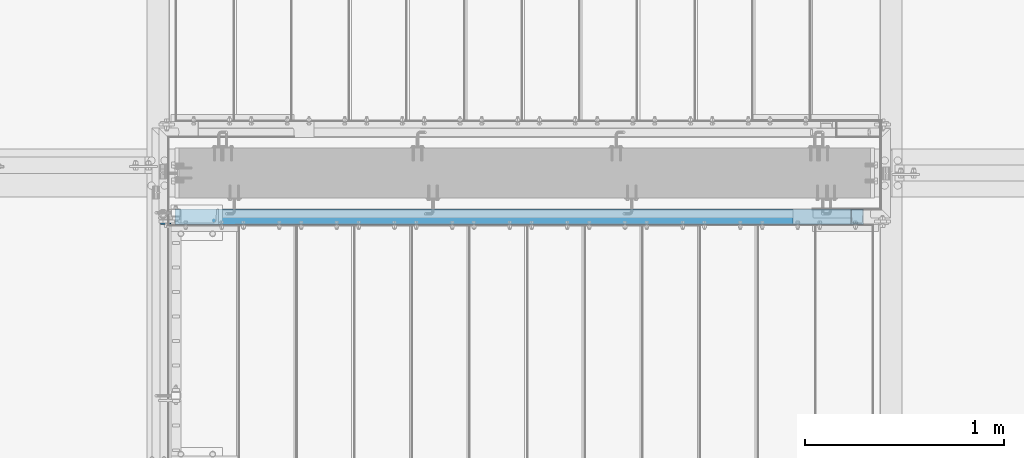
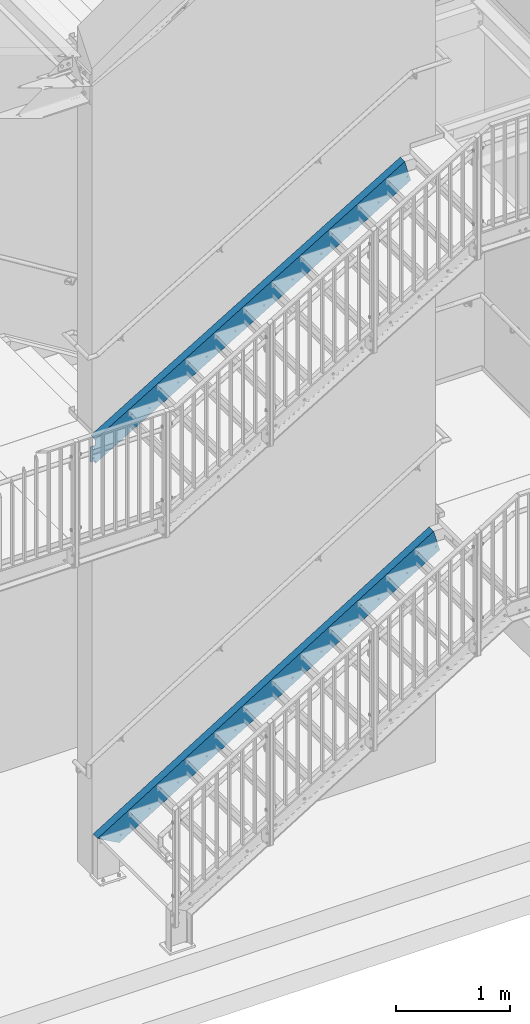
# One storey, part 32 of 410: 2 members, 46 openings.
"""IFC2X3 building model written with IfcOpenShell, lengths in millimetres."""

from ifc_helpers import new_model, entity, si_unit, converted_unit, point, frame, frame_2d, origin, origin_with_axes, origin_2d_with_axis, place, context, project, spatial, circle_curve, line_curve, trimmed, segment, composite_curve, circle, u_section, outline, extrude, clip, halfspace, material, element, save


model = new_model("IFC2X3")

# Units and contexts
model_context = context("Model", 3, precision=1e-09, world=origin_with_axes())
ifc_project = project(units=[si_unit("LENGTHUNIT", "METRE", prefix="MILLI"), si_unit("AREAUNIT", "SQUARE_METRE"), si_unit("VOLUMEUNIT", "CUBIC_METRE"), converted_unit("PLANEANGLEUNIT", "DEGREE", entity("IfcPlaneAngleMeasure", 0.01745329), si_unit("PLANEANGLEUNIT", "RADIAN"), dimensions=[0, 0, 0, 0, 0, 0, 0])], contexts=[model_context])

# Site, building, storey
site_placement = place(None, origin_with_axes())
site = spatial("IfcSite", under=ifc_project, at=site_placement, Name="mKR Teilneubau & Sanierung BA1 - Ostfildern", CompositionType="ELEMENT")
building_placement = place(site_placement, origin_with_axes())
building = spatial("IfcBuilding", under=site, at=building_placement, Name="Struktur 1", CompositionType="ELEMENT")
storey_placement = place(building_placement, origin_with_axes())
storey = spatial("IfcBuildingStorey", under=building, at=storey_placement, Name="Default Storey", CompositionType="ELEMENT", Elevation=0.0)

# Member, openings
ifc_material = material(Name="S235JR")
member_1_placement = place(None, frame((1936.296714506, 16741.399999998, -2175.379342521), z_axis=(-0.851214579, 0.0, -0.524817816), x_axis=(0.0, 1.0, 0.0)))
member_1 = element("IfcMember", 1, at=member_1_placement, inside=storey, material=ifc_material, Name="-", ObjectType="-", context=model_context, shape_type="Clipping", body=[
    clip(clip(extrude(u_section(Depth=220.0, FlangeWidth=80.0, WebThickness=9.0, FlangeThickness=12.5, FilletRadius=12.5, EdgeRadius=6.0, FlangeSlope=4.574, at=frame_2d((18.6, 0.0))), origin(), (0.0, 0.0, 1.0), 4493.470065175), halfspace(frame((-16741.399999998, -2591.759085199, -467.580855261), z_axis=(0.0, -0.272750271, 0.962084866), x_axis=(-1.0, 0.0, 0.0)), True)), halfspace(frame((-16741.399999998, -626.459299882, 4521.748255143), z_axis=(0.0, -0.487433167, -0.873160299), x_axis=(1.0, 0.0, 0.0)), True)),
])
opening_1_placement = place(member_1_placement, frame((-21.9, 49.652632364, 308.212884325), z_axis=(1.0, 0.0, 0.0), x_axis=(0.0, 0.524817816, -0.851214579)))
element("IfcOpeningElement", 2, at=opening_1_placement, cuts=member_1, ObjectType="Opening", context=model_context, shape_type="SweptSolid", body=[
    extrude(circle(Radius=7.001, at=origin_2d_with_axis()), origin(), (0.0, 0.0, 1.0), 10.0),
])
opening_2_placement = place(member_1_placement, frame((-21.9, 49.652632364, 989.592191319), z_axis=(1.0, 0.0, 0.0), x_axis=(0.0, 0.524817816, -0.851214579)))
element("IfcOpeningElement", 3, at=opening_2_placement, cuts=member_1, ObjectType="Opening", context=model_context, shape_type="SweptSolid", body=[
    extrude(circle(Radius=7.001, at=origin_2d_with_axis()), origin(), (0.0, 0.0, 1.0), 10.0),
])
opening_3_placement = place(member_1_placement, frame((-21.9, 49.652632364, 648.902537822), z_axis=(1.0, 0.0, 0.0), x_axis=(0.0, 0.524817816, -0.851214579)))
element("IfcOpeningElement", 4, at=opening_3_placement, cuts=member_1, ObjectType="Opening", context=model_context, shape_type="SweptSolid", body=[
    extrude(circle(Radius=7.001, at=origin_2d_with_axis()), origin(), (0.0, 0.0, 1.0), 10.0),
])
opening_4_placement = place(member_1_placement, frame((-21.9, -44.814574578, 461.43150856), z_axis=(1.0, 0.0, 0.0), x_axis=(0.0, 0.524817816, -0.851214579)))
element("IfcOpeningElement", 5, at=opening_4_placement, cuts=member_1, ObjectType="Opening", context=model_context, shape_type="SweptSolid", body=[
    extrude(circle(Radius=7.001, at=origin_2d_with_axis()), origin(), (0.0, 0.0, 1.0), 10.0),
])
opening_5_placement = place(member_1_placement, frame((-21.9, -44.814574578, 1142.810815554), z_axis=(1.0, 0.0, 0.0), x_axis=(0.0, 0.524817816, -0.851214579)))
element("IfcOpeningElement", 6, at=opening_5_placement, cuts=member_1, ObjectType="Opening", context=model_context, shape_type="SweptSolid", body=[
    extrude(circle(Radius=7.001, at=origin_2d_with_axis()), origin(), (0.0, 0.0, 1.0), 10.0),
])
opening_6_placement = place(member_1_placement, frame((-21.9, -44.814574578, 802.121162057), z_axis=(1.0, 0.0, 0.0), x_axis=(0.0, 0.524817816, -0.851214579)))
element("IfcOpeningElement", 7, at=opening_6_placement, cuts=member_1, ObjectType="Opening", context=model_context, shape_type="SweptSolid", body=[
    extrude(circle(Radius=7.001, at=origin_2d_with_axis()), origin(), (0.0, 0.0, 1.0), 10.0),
])
opening_7_placement = place(member_1_placement, frame((-21.9, 49.652632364, 2352.350805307), z_axis=(1.0, 0.0, 0.0), x_axis=(0.0, 0.524817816, -0.851214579)))
element("IfcOpeningElement", 8, at=opening_7_placement, cuts=member_1, ObjectType="Opening", context=model_context, shape_type="SweptSolid", body=[
    extrude(circle(Radius=7.001, at=origin_2d_with_axis()), origin(), (0.0, 0.0, 1.0), 10.0),
])
opening_8_placement = place(member_1_placement, frame((-21.9, -44.814574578, 3868.328043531), z_axis=(1.0, 0.0, 0.0), x_axis=(0.0, 0.524817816, -0.851214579)))
element("IfcOpeningElement", 9, at=opening_8_placement, cuts=member_1, ObjectType="Opening", context=model_context, shape_type="SweptSolid", body=[
    extrude(circle(Radius=7.001, at=origin_2d_with_axis()), origin(), (0.0, 0.0, 1.0), 10.0),
])
opening_9_placement = place(member_1_placement, frame((-21.9, -44.814574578, 3186.948736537), z_axis=(1.0, 0.0, 0.0), x_axis=(0.0, 0.524817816, -0.851214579)))
element("IfcOpeningElement", 10, at=opening_9_placement, cuts=member_1, ObjectType="Opening", context=model_context, shape_type="SweptSolid", body=[
    extrude(circle(Radius=7.001, at=origin_2d_with_axis()), origin(), (0.0, 0.0, 1.0), 10.0),
])
opening_10_placement = place(member_1_placement, frame((-21.9, -44.814574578, 2505.569429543), z_axis=(1.0, 0.0, 0.0), x_axis=(0.0, 0.524817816, -0.851214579)))
element("IfcOpeningElement", 11, at=opening_10_placement, cuts=member_1, ObjectType="Opening", context=model_context, shape_type="SweptSolid", body=[
    extrude(circle(Radius=7.001, at=origin_2d_with_axis()), origin(), (0.0, 0.0, 1.0), 10.0),
])
opening_11_placement = place(member_1_placement, frame((-21.9, 49.652632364, 2693.040458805), z_axis=(1.0, 0.0, 0.0), x_axis=(0.0, 0.524817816, -0.851214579)))
element("IfcOpeningElement", 12, at=opening_11_placement, cuts=member_1, ObjectType="Opening", context=model_context, shape_type="SweptSolid", body=[
    extrude(circle(Radius=7.001, at=origin_2d_with_axis()), origin(), (0.0, 0.0, 1.0), 10.0),
])
opening_12_placement = place(member_1_placement, frame((-21.9, -44.814574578, 3527.638390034), z_axis=(1.0, 0.0, 0.0), x_axis=(0.0, 0.524817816, -0.851214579)))
element("IfcOpeningElement", 13, at=opening_12_placement, cuts=member_1, ObjectType="Opening", context=model_context, shape_type="SweptSolid", body=[
    extrude(circle(Radius=7.001, at=origin_2d_with_axis()), origin(), (0.0, 0.0, 1.0), 10.0),
])
opening_13_placement = place(member_1_placement, frame((-21.9, -44.814574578, 2164.879776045), z_axis=(1.0, 0.0, 0.0), x_axis=(0.0, 0.524817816, -0.851214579)))
element("IfcOpeningElement", 14, at=opening_13_placement, cuts=member_1, ObjectType="Opening", context=model_context, shape_type="SweptSolid", body=[
    extrude(circle(Radius=7.001, at=origin_2d_with_axis()), origin(), (0.0, 0.0, 1.0), 10.0),
])
opening_14_placement = place(member_1_placement, frame((-21.9, -44.814574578, 1824.190122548), z_axis=(1.0, 0.0, 0.0), x_axis=(0.0, 0.524817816, -0.851214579)))
element("IfcOpeningElement", 15, at=opening_14_placement, cuts=member_1, ObjectType="Opening", context=model_context, shape_type="SweptSolid", body=[
    extrude(circle(Radius=7.001, at=origin_2d_with_axis()), origin(), (0.0, 0.0, 1.0), 10.0),
])
opening_15_placement = place(member_1_placement, frame((-21.9, 49.652632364, 1670.971498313), z_axis=(1.0, 0.0, 0.0), x_axis=(0.0, 0.524817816, -0.851214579)))
element("IfcOpeningElement", 16, at=opening_15_placement, cuts=member_1, ObjectType="Opening", context=model_context, shape_type="SweptSolid", body=[
    extrude(circle(Radius=7.001, at=origin_2d_with_axis()), origin(), (0.0, 0.0, 1.0), 10.0),
])
opening_16_placement = place(member_1_placement, frame((-21.9, 49.652632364, 2011.66115181), z_axis=(1.0, 0.0, 0.0), x_axis=(0.0, 0.524817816, -0.851214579)))
element("IfcOpeningElement", 17, at=opening_16_placement, cuts=member_1, ObjectType="Opening", context=model_context, shape_type="SweptSolid", body=[
    extrude(circle(Radius=7.001, at=origin_2d_with_axis()), origin(), (0.0, 0.0, 1.0), 10.0),
])
opening_17_placement = place(member_1_placement, frame((-21.9, 49.652632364, 3033.730112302), z_axis=(1.0, 0.0, 0.0), x_axis=(0.0, 0.524817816, -0.851214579)))
element("IfcOpeningElement", 18, at=opening_17_placement, cuts=member_1, ObjectType="Opening", context=model_context, shape_type="SweptSolid", body=[
    extrude(circle(Radius=7.001, at=origin_2d_with_axis()), origin(), (0.0, 0.0, 1.0), 10.0),
])
opening_18_placement = place(member_1_placement, frame((-21.9, 49.652632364, 3374.419765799), z_axis=(1.0, 0.0, 0.0), x_axis=(0.0, 0.524817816, -0.851214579)))
element("IfcOpeningElement", 19, at=opening_18_placement, cuts=member_1, ObjectType="Opening", context=model_context, shape_type="SweptSolid", body=[
    extrude(circle(Radius=7.001, at=origin_2d_with_axis()), origin(), (0.0, 0.0, 1.0), 10.0),
])
opening_19_placement = place(member_1_placement, frame((-21.9, 49.652632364, 4055.799072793), z_axis=(1.0, 0.0, 0.0), x_axis=(0.0, 0.524817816, -0.851214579)))
element("IfcOpeningElement", 20, at=opening_19_placement, cuts=member_1, ObjectType="Opening", context=model_context, shape_type="SweptSolid", body=[
    extrude(circle(Radius=7.001, at=origin_2d_with_axis()), origin(), (0.0, 0.0, 1.0), 10.0),
])
opening_20_placement = place(member_1_placement, frame((-21.9, -44.814574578, 2846.25908304), z_axis=(1.0, 0.0, 0.0), x_axis=(0.0, 0.524817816, -0.851214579)))
element("IfcOpeningElement", 21, at=opening_20_placement, cuts=member_1, ObjectType="Opening", context=model_context, shape_type="SweptSolid", body=[
    extrude(circle(Radius=7.001, at=origin_2d_with_axis()), origin(), (0.0, 0.0, 1.0), 10.0),
])
opening_21_placement = place(member_1_placement, frame((-21.9, -44.814574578, 1483.500469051), z_axis=(1.0, 0.0, 0.0), x_axis=(0.0, 0.524817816, -0.851214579)))
element("IfcOpeningElement", 22, at=opening_21_placement, cuts=member_1, ObjectType="Opening", context=model_context, shape_type="SweptSolid", body=[
    extrude(circle(Radius=7.001, at=origin_2d_with_axis()), origin(), (0.0, 0.0, 1.0), 10.0),
])
opening_22_placement = place(member_1_placement, frame((-21.9, 49.652632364, 1330.281844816), z_axis=(1.0, 0.0, 0.0), x_axis=(0.0, 0.524817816, -0.851214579)))
element("IfcOpeningElement", 23, at=opening_22_placement, cuts=member_1, ObjectType="Opening", context=model_context, shape_type="SweptSolid", body=[
    extrude(circle(Radius=7.001, at=origin_2d_with_axis()), origin(), (0.0, 0.0, 1.0), 10.0),
])
opening_23_placement = place(member_1_placement, frame((-21.9, 49.652632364, 3715.109419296), z_axis=(1.0, 0.0, 0.0), x_axis=(0.0, 0.524817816, -0.851214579)))
element("IfcOpeningElement", 24, at=opening_23_placement, cuts=member_1, ObjectType="Opening", context=model_context, shape_type="SweptSolid", body=[
    extrude(circle(Radius=7.001, at=origin_2d_with_axis()), origin(), (0.0, 0.0, 1.0), 10.0),
])

member_2_placement = place(None, frame((-1849.151841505, 16741.399999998, -214.711855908), z_axis=(0.857606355, 0.0, 0.51430666), x_axis=(0.0, 1.0, 0.0)))
member_2 = element("IfcMember", 25, at=member_2_placement, inside=storey, material=ifc_material, Name="-", ObjectType="-", context=model_context, shape_type="Clipping", body=[
    clip(extrude(u_section(Depth=220.0, FlangeWidth=80.0, WebThickness=9.0, FlangeThickness=12.5, FilletRadius=12.5, EdgeRadius=6.0, FlangeSlope=4.574, at=frame_2d((18.6, 0.0))), origin(), (0.0, 0.0, 1.0), 4072.635039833), halfspace(frame((-16741.399999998, -1254.967899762, 3459.133405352), z_axis=(0.0, 0.266827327, -0.963744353), x_axis=(-1.0, 0.0, 0.0)), True)),
])
opening_24_placement = place(member_2_placement, frame((-121.5, -180.850322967, 12.991723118), z_axis=(-1.0, 0.0, 0.0), x_axis=(0.0, 0.857606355, 0.51430666)))
element("IfcOpeningElement", 26, at=opening_24_placement, cuts=member_2, ObjectType="Opening", context=model_context, shape_type="SweptSolid", body=[
    extrude(outline(composite_curve([segment(trimmed(line_curve((0.0, 0.0), (1.0, 0.0), 108.128512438), [point((0.0, 0.0))], [point((108.128512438, 0.0))], True, "CARTESIAN"), True, "CONTINUOUS"), segment(trimmed(circle_curve(frame_2d((108.128512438, 5.001), x_axis=(1.0, 0.0)), 5.001), [point((108.128512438, 0.0))], [point((113.129512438, 5.001))], True, "CARTESIAN"), True, "CONTINUOUS"), segment(trimmed(line_curve((113.129512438, 5.001), (0.0, 1.0), 47.048), [point((113.129512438, 5.001))], [point((113.129512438, 52.049))], True, "CARTESIAN"), True, "CONTINUOUS"), segment(trimmed(line_curve((113.129512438, 52.049), (1.0, 0.0), 159.998), [point((113.129512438, 52.049))], [point((273.127512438, 52.049))], True, "CARTESIAN"), True, "CONTINUOUS"), segment(trimmed(line_curve((273.127512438, 52.049), (0.0, -1.0), 47.048), [point((273.127512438, 52.049))], [point((273.127512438, 5.001))], True, "CARTESIAN"), True, "CONTINUOUS"), segment(trimmed(circle_curve(frame_2d((278.128512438, 5.001), x_axis=(1.0, 0.0)), 5.001), [point((273.127512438, 5.001))], [point((278.128512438, 0.0))], True, "CARTESIAN"), True, "CONTINUOUS"), segment(trimmed(line_curve((278.128512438, 0.0), (1.0, 0.0), 97.344799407), [point((278.128512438, 0.0))], [point((375.473311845, 0.0))], True, "CARTESIAN"), True, "CONTINUOUS"), segment(trimmed(line_curve((375.473311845, 0.0), (0.0, 1.0), 221.769754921), [point((375.473311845, 0.0))], [point((375.473311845, 221.769754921))], True, "CARTESIAN"), True, "CONTINUOUS"), segment(trimmed(line_curve((375.473311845, 221.769754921), (-1.0, 0.0), 375.473311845), [point((375.473311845, 221.769754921))], [point((0.0, 221.769754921))], True, "CARTESIAN"), True, "CONTINUOUS"), segment(trimmed(line_curve((0.0, 221.769754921), (0.0, -1.0), 221.769754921), [point((0.0, 221.769754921))], [point((0.0, 0.0))], True, "CARTESIAN"), True, "CONTINUOUS")], self_intersect=False)), origin(), (0.0, 0.0, -1.0), 280.2),
])
opening_25_placement = place(member_2_placement, frame((-21.9, 44.830917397, 2264.685505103), z_axis=(1.0, 0.0, 0.0), x_axis=(0.0, -0.51430666, 0.857606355)))
element("IfcOpeningElement", 27, at=opening_25_placement, cuts=member_2, ObjectType="Opening", context=model_context, shape_type="SweptSolid", body=[
    extrude(circle(Radius=7.001, at=origin_2d_with_axis()), origin(), (0.0, 0.0, 1.0), 10.0),
])
opening_26_placement = place(member_2_placement, frame((-21.9, -47.744281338, 2419.054648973), z_axis=(1.0, 0.0, 0.0), x_axis=(0.0, -0.51430666, 0.857606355)))
element("IfcOpeningElement", 28, at=opening_26_placement, cuts=member_2, ObjectType="Opening", context=model_context, shape_type="SweptSolid", body=[
    extrude(circle(Radius=7.001, at=origin_2d_with_axis()), origin(), (0.0, 0.0, 1.0), 10.0),
])
opening_27_placement = place(member_2_placement, frame((-21.9, -47.744281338, 3095.355607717), z_axis=(1.0, 0.0, 0.0), x_axis=(0.0, -0.51430666, 0.857606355)))
element("IfcOpeningElement", 29, at=opening_27_placement, cuts=member_2, ObjectType="Opening", context=model_context, shape_type="SweptSolid", body=[
    extrude(circle(Radius=7.001, at=origin_2d_with_axis()), origin(), (0.0, 0.0, 1.0), 10.0),
])
opening_28_placement = place(member_2_placement, frame((-21.9, 44.830917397, 573.933108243), z_axis=(1.0, 0.0, 0.0), x_axis=(0.0, -0.51430666, 0.857606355)))
element("IfcOpeningElement", 30, at=opening_28_placement, cuts=member_2, ObjectType="Opening", context=model_context, shape_type="SweptSolid", body=[
    extrude(circle(Radius=7.001, at=origin_2d_with_axis()), origin(), (0.0, 0.0, 1.0), 10.0),
])
opening_29_placement = place(member_2_placement, frame((-21.9, 44.830917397, 912.083587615), z_axis=(1.0, 0.0, 0.0), x_axis=(0.0, -0.51430666, 0.857606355)))
element("IfcOpeningElement", 31, at=opening_29_placement, cuts=member_2, ObjectType="Opening", context=model_context, shape_type="SweptSolid", body=[
    extrude(circle(Radius=7.001, at=origin_2d_with_axis()), origin(), (0.0, 0.0, 1.0), 10.0),
])
opening_30_placement = place(member_2_placement, frame((-21.9, 44.830917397, 3617.28742259), z_axis=(1.0, 0.0, 0.0), x_axis=(0.0, -0.51430666, 0.857606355)))
element("IfcOpeningElement", 32, at=opening_30_placement, cuts=member_2, ObjectType="Opening", context=model_context, shape_type="SweptSolid", body=[
    extrude(circle(Radius=7.001, at=origin_2d_with_axis()), origin(), (0.0, 0.0, 1.0), 10.0),
])
opening_31_placement = place(member_2_placement, frame((-21.9, -47.744281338, 3771.65656646), z_axis=(1.0, 0.0, 0.0), x_axis=(0.0, -0.51430666, 0.857606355)))
element("IfcOpeningElement", 33, at=opening_31_placement, cuts=member_2, ObjectType="Opening", context=model_context, shape_type="SweptSolid", body=[
    extrude(circle(Radius=7.001, at=origin_2d_with_axis()), origin(), (0.0, 0.0, 1.0), 10.0),
])
opening_32_placement = place(member_2_placement, frame((-21.9, -47.744281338, 3433.506087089), z_axis=(1.0, 0.0, 0.0), x_axis=(0.0, -0.51430666, 0.857606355)))
element("IfcOpeningElement", 34, at=opening_32_placement, cuts=member_2, ObjectType="Opening", context=model_context, shape_type="SweptSolid", body=[
    extrude(circle(Radius=7.001, at=origin_2d_with_axis()), origin(), (0.0, 0.0, 1.0), 10.0),
])
opening_33_placement = place(member_2_placement, frame((-21.9, 44.830917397, 3279.136943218), z_axis=(1.0, 0.0, 0.0), x_axis=(0.0, -0.51430666, 0.857606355)))
element("IfcOpeningElement", 35, at=opening_33_placement, cuts=member_2, ObjectType="Opening", context=model_context, shape_type="SweptSolid", body=[
    extrude(circle(Radius=7.001, at=origin_2d_with_axis()), origin(), (0.0, 0.0, 1.0), 10.0),
])
opening_34_placement = place(member_2_placement, frame((-21.9, -47.744281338, 728.302252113), z_axis=(1.0, 0.0, 0.0), x_axis=(0.0, -0.51430666, 0.857606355)))
element("IfcOpeningElement", 36, at=opening_34_placement, cuts=member_2, ObjectType="Opening", context=model_context, shape_type="SweptSolid", body=[
    extrude(circle(Radius=7.001, at=origin_2d_with_axis()), origin(), (0.0, 0.0, 1.0), 10.0),
])
opening_35_placement = place(member_2_placement, frame((-21.9, -47.744281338, 1742.753690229), z_axis=(1.0, 0.0, 0.0), x_axis=(0.0, -0.51430666, 0.857606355)))
element("IfcOpeningElement", 37, at=opening_35_placement, cuts=member_2, ObjectType="Opening", context=model_context, shape_type="SweptSolid", body=[
    extrude(circle(Radius=7.001, at=origin_2d_with_axis()), origin(), (0.0, 0.0, 1.0), 10.0),
])
opening_36_placement = place(member_2_placement, frame((-21.9, 44.830917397, 1926.535025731), z_axis=(1.0, 0.0, 0.0), x_axis=(0.0, -0.51430666, 0.857606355)))
element("IfcOpeningElement", 38, at=opening_36_placement, cuts=member_2, ObjectType="Opening", context=model_context, shape_type="SweptSolid", body=[
    extrude(circle(Radius=7.001, at=origin_2d_with_axis()), origin(), (0.0, 0.0, 1.0), 10.0),
])
opening_37_placement = place(member_2_placement, frame((-21.9, -47.744281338, 2080.904169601), z_axis=(1.0, 0.0, 0.0), x_axis=(0.0, -0.51430666, 0.857606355)))
element("IfcOpeningElement", 39, at=opening_37_placement, cuts=member_2, ObjectType="Opening", context=model_context, shape_type="SweptSolid", body=[
    extrude(circle(Radius=7.001, at=origin_2d_with_axis()), origin(), (0.0, 0.0, 1.0), 10.0),
])
opening_38_placement = place(member_2_placement, frame((-21.9, 44.830917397, 2602.835984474), z_axis=(1.0, 0.0, 0.0), x_axis=(0.0, -0.51430666, 0.857606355)))
element("IfcOpeningElement", 40, at=opening_38_placement, cuts=member_2, ObjectType="Opening", context=model_context, shape_type="SweptSolid", body=[
    extrude(circle(Radius=7.001, at=origin_2d_with_axis()), origin(), (0.0, 0.0, 1.0), 10.0),
])
opening_39_placement = place(member_2_placement, frame((-21.9, -47.744281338, 2757.205128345), z_axis=(1.0, 0.0, 0.0), x_axis=(0.0, -0.51430666, 0.857606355)))
element("IfcOpeningElement", 41, at=opening_39_placement, cuts=member_2, ObjectType="Opening", context=model_context, shape_type="SweptSolid", body=[
    extrude(circle(Radius=7.001, at=origin_2d_with_axis()), origin(), (0.0, 0.0, 1.0), 10.0),
])
opening_40_placement = place(member_2_placement, frame((-21.9, 44.830917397, 2940.986463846), z_axis=(1.0, 0.0, 0.0), x_axis=(0.0, -0.51430666, 0.857606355)))
element("IfcOpeningElement", 42, at=opening_40_placement, cuts=member_2, ObjectType="Opening", context=model_context, shape_type="SweptSolid", body=[
    extrude(circle(Radius=7.001, at=origin_2d_with_axis()), origin(), (0.0, 0.0, 1.0), 10.0),
])
opening_41_placement = place(member_2_placement, frame((-11.9, -42.646457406, 60.830884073), z_axis=(1.0, 0.0, 0.0), x_axis=(0.0, 1.0, 0.0)))
element("IfcOpeningElement", 43, at=opening_41_placement, cuts=member_2, ObjectType="Opening", context=model_context, shape_type="SweptSolid", body=[
    extrude(circle(Radius=9.001, at=frame_2d((-4.629274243, 7.7193148), x_axis=(1.0, 0.0))), origin(), (0.0, 0.0, -1.0), 10.0),
])
opening_42_placement = place(member_2_placement, frame((-11.9, 43.114178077, 112.261550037), z_axis=(1.0, 0.0, 0.0), x_axis=(0.0, 1.0, 0.0)))
element("IfcOpeningElement", 44, at=opening_42_placement, cuts=member_2, ObjectType="Opening", context=model_context, shape_type="SweptSolid", body=[
    extrude(circle(Radius=9.001, at=frame_2d((-4.629274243, 7.7193148), x_axis=(1.0, 0.0))), origin(), (0.0, 0.0, -1.0), 10.0),
])
opening_43_placement = place(member_2_placement, frame((-21.9, -47.744281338, 1404.603210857), z_axis=(1.0, 0.0, 0.0), x_axis=(0.0, -0.51430666, 0.857606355)))
element("IfcOpeningElement", 45, at=opening_43_placement, cuts=member_2, ObjectType="Opening", context=model_context, shape_type="SweptSolid", body=[
    extrude(circle(Radius=7.001, at=origin_2d_with_axis()), origin(), (0.0, 0.0, 1.0), 10.0),
])
opening_44_placement = place(member_2_placement, frame((-21.9, 44.830917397, 1250.234066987), z_axis=(1.0, 0.0, 0.0), x_axis=(0.0, -0.51430666, 0.857606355)))
element("IfcOpeningElement", 46, at=opening_44_placement, cuts=member_2, ObjectType="Opening", context=model_context, shape_type="SweptSolid", body=[
    extrude(circle(Radius=7.001, at=origin_2d_with_axis()), origin(), (0.0, 0.0, 1.0), 10.0),
])
opening_45_placement = place(member_2_placement, frame((-21.9, -47.744281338, 1066.452731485), z_axis=(1.0, 0.0, 0.0), x_axis=(0.0, -0.51430666, 0.857606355)))
element("IfcOpeningElement", 47, at=opening_45_placement, cuts=member_2, ObjectType="Opening", context=model_context, shape_type="SweptSolid", body=[
    extrude(circle(Radius=7.001, at=origin_2d_with_axis()), origin(), (0.0, 0.0, 1.0), 10.0),
])
opening_46_placement = place(member_2_placement, frame((-21.9, 44.830917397, 1588.384546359), z_axis=(1.0, 0.0, 0.0), x_axis=(0.0, -0.51430666, 0.857606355)))
element("IfcOpeningElement", 48, at=opening_46_placement, cuts=member_2, ObjectType="Opening", context=model_context, shape_type="SweptSolid", body=[
    extrude(circle(Radius=7.001, at=origin_2d_with_axis()), origin(), (0.0, 0.0, 1.0), 10.0),
])

save(model, "model.ifc")
